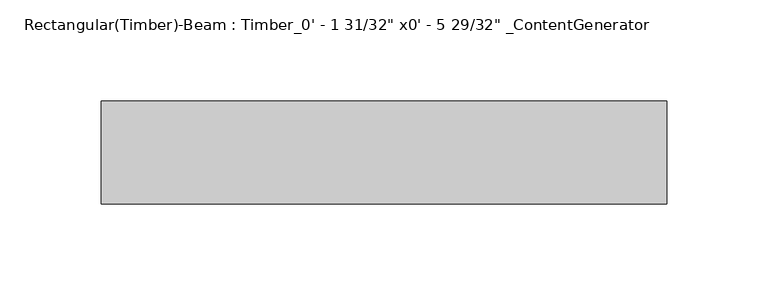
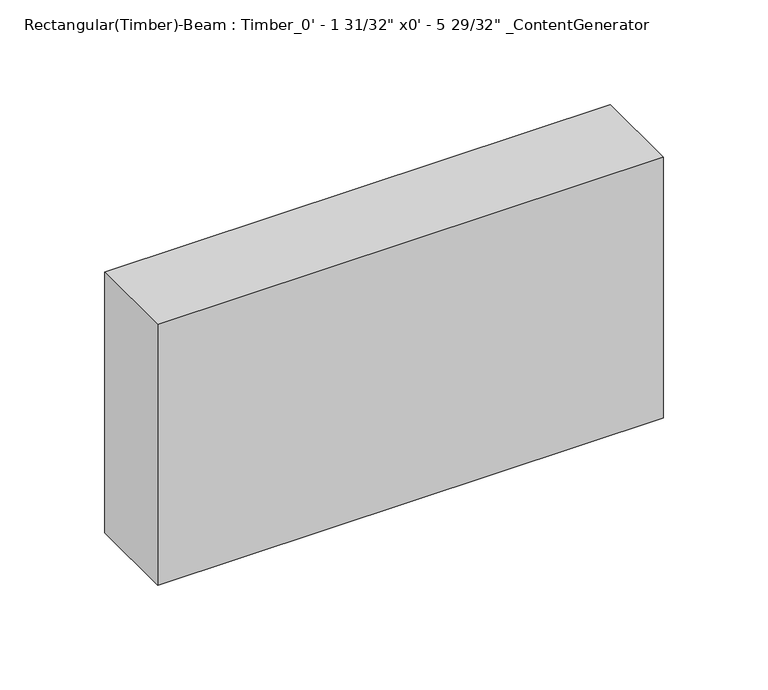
"""IFC4 building model written with IfcOpenShell, lengths in millimetres: beam geometry."""

from ifc_helpers import new_model, si_unit, frame, origin, place, context, project, spatial, polyline, outline, extrude, source, transform, mapped, element, save


def beam_bd63a015(model_context):
    return source(origin(), model_context, "Body", "SweptSolid", [
        extrude(outline(polyline([(152.3949994, 25.4), (152.3949994, -25.4), (-126.995, -25.4), (-126.995, 25.4), (152.3949994, 25.4)])), frame((0.0, 0.0, -76.2), z_axis=(0.0, 0.0, 1.0), x_axis=(1.0, 0.0, 0.0)), (0.0, 0.0, 1.0), 152.4),
    ])


if __name__ == "__main__":
    model = new_model("IFC4")
    model_context = context("Model", 3, world=origin())
    ifc_project = project(units=[si_unit("LENGTHUNIT", "METRE", prefix="MILLI")], contexts=[model_context])
    site = spatial("IfcSite", under=ifc_project)
    building = spatial("IfcBuilding", under=site)
    placement = place(None, origin())
    beam_shape = beam_bd63a015(model_context)
    element("IfcBeam", 1, ObjectType="Rectangular(Timber)-Beam : Timber_0' - 1 31/32\" x0' - 5 29/32\" _ContentGenerator", at=placement, inside=building, context=model_context, shape_type="MappedRepresentation", body=[
        mapped(beam_shape, transform((0.0, 0.0, 0.0), x_axis=(1.0, 0.0, 0.0), y_axis=(0.0, 1.0, 0.0), z_axis=(0.0, 0.0, 1.0))),
    ])
    save(model, "model.ifc")
